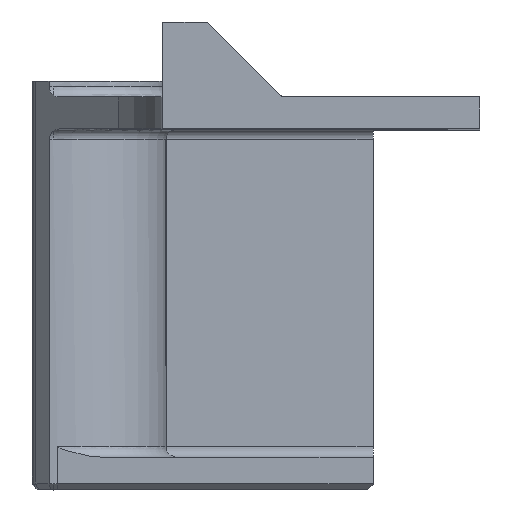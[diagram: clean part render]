
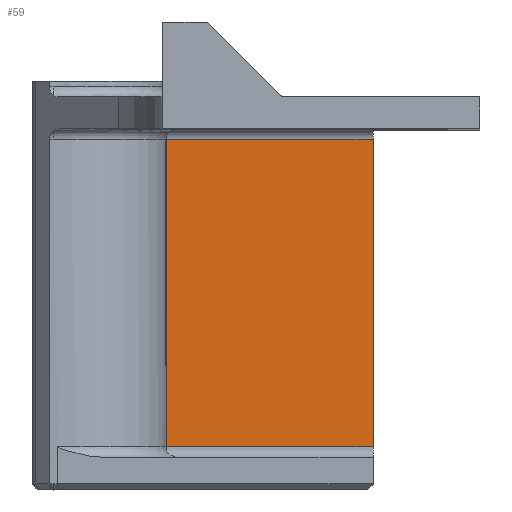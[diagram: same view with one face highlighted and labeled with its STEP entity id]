
A CAD part, top view. The second image highlights one B-rep face of the part: STEP entity #59.
In plain terms, the highlighted planar face has unit normal (0, 0, 1).
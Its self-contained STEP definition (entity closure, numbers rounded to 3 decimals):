
#20 = LINE ( 'NONE', #1205, #6472 ) ;
#59 = ADVANCED_FACE ( 'NONE', ( #5357 ), #2391, .F. ) ;
#233 = CARTESIAN_POINT ( 'NONE',  ( 8.905, -1., 2.5 ) ) ;
#290 = DIRECTION ( 'NONE',  ( 0., 0., -1. ) ) ;
#461 = VECTOR ( 'NONE', #3381, 1000. ) ;
#526 = AXIS2_PLACEMENT_3D ( 'NONE', #2581, #290, #4371 ) ;
#1205 = CARTESIAN_POINT ( 'NONE',  ( 30., 25.525, 2.5 ) ) ;
#1315 = VERTEX_POINT ( 'NONE', #1512 ) ;
#1386 = VECTOR ( 'NONE', #5066, 1000. ) ;
#1512 = CARTESIAN_POINT ( 'NONE',  ( 30., -1., 2.5 ) ) ;
#1865 = CARTESIAN_POINT ( 'NONE',  ( 30., -29.8, 2.5 ) ) ;
#2200 = CARTESIAN_POINT ( 'NONE',  ( 10.583, 25.525, 2.5 ) ) ;
#2255 = CARTESIAN_POINT ( 'NONE',  ( 10.583, -1., 2.5 ) ) ;
#2391 = PLANE ( 'NONE',  #526 ) ;
#2581 = CARTESIAN_POINT ( 'NONE',  ( 4.97, 25.525, 2.5 ) ) ;
#2648 = LINE ( 'NONE', #5652, #1386 ) ;
#2754 = DIRECTION ( 'NONE',  ( -1., 0., 0. ) ) ;
#3024 = EDGE_CURVE ( 'NONE', #5299, #6580, #2648, .T. ) ;
#3052 = VECTOR ( 'NONE', #2754, 1000. ) ;
#3381 = DIRECTION ( 'NONE',  ( 0., -1., 0. ) ) ;
#3723 = ORIENTED_EDGE ( 'NONE', *, *, #5980, .F. ) ;
#3889 = EDGE_LOOP ( 'NONE', ( #3723, #6296, #5384, #7669 ) ) ;
#4260 = EDGE_CURVE ( 'NONE', #7161, #5299, #7517, .T. ) ;
#4371 = DIRECTION ( 'NONE',  ( -1., 0., 0. ) ) ;
#5066 = DIRECTION ( 'NONE',  ( 1., 0., 0. ) ) ;
#5299 = VERTEX_POINT ( 'NONE', #7402 ) ;
#5357 = FACE_OUTER_BOUND ( 'NONE', #3889, .T. ) ;
#5384 = ORIENTED_EDGE ( 'NONE', *, *, #4260, .T. ) ;
#5652 = CARTESIAN_POINT ( 'NONE',  ( 30., -29.8, 2.5 ) ) ;
#5716 = LINE ( 'NONE', #233, #3052 ) ;
#5980 = EDGE_CURVE ( 'NONE', #1315, #6580, #20, .T. ) ;
#6296 = ORIENTED_EDGE ( 'NONE', *, *, #7343, .T. ) ;
#6472 = VECTOR ( 'NONE', #7186, 1000. ) ;
#6580 = VERTEX_POINT ( 'NONE', #1865 ) ;
#7161 = VERTEX_POINT ( 'NONE', #2255 ) ;
#7186 = DIRECTION ( 'NONE',  ( 0., -1., 0. ) ) ;
#7343 = EDGE_CURVE ( 'NONE', #1315, #7161, #5716, .T. ) ;
#7402 = CARTESIAN_POINT ( 'NONE',  ( 10.583, -29.8, 2.5 ) ) ;
#7517 = LINE ( 'NONE', #2200, #461 ) ;
#7669 = ORIENTED_EDGE ( 'NONE', *, *, #3024, .T. ) ;
